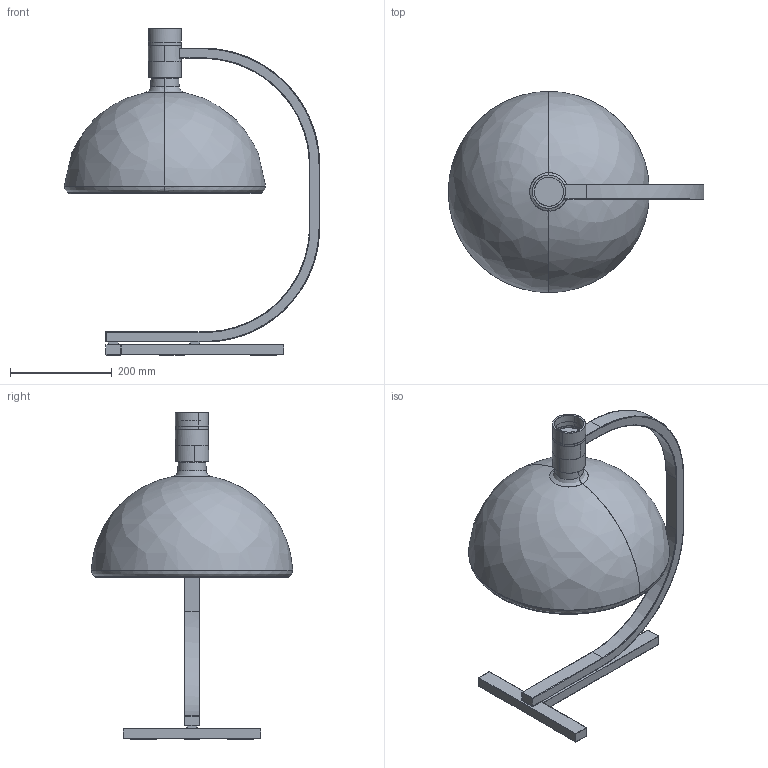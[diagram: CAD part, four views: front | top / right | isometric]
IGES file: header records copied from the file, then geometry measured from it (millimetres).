
Global section: file name: C:\Users\tungari.NEMOLIGHTING\Desktop\3D\TABLE\3D_AS1C\DEFEATURE\3D_AS1C.igs; native system: Rhinoceros ( Jun 17 2014 ); preprocessor: Trout Lake IGES 012 Jun 17 2014; date: 180228.191803; units: millimetre
Bounding box: 501.25 x 394.93 x 641 mm (x, y, z)
Surface area: 497843 mm2 (no closed solid volume)
Topology: 0 solids, 0 shells, 225 faces, 1632 edges, 1614 vertices
Faces by surface type: bspline 225
